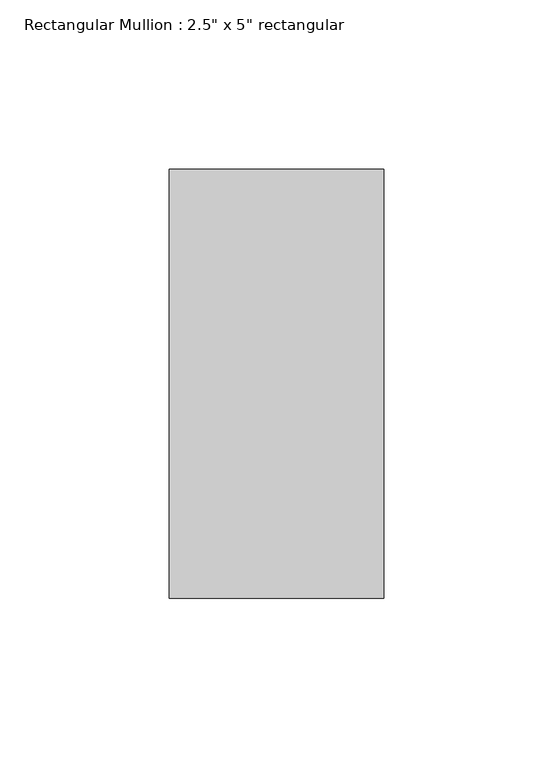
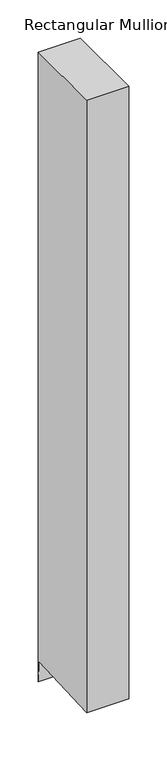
"""IFC4 building model written with IfcOpenShell, lengths in millimetres: member geometry."""

from ifc_helpers import new_model, si_unit, frame, origin, place, context, project, spatial, polyline, outline, extrude, source, transform, mapped, element, save


def member_47d2ef55(model_context):
    return source(origin(), model_context, "Body", "SweptSolid", [
        extrude(outline(polyline([(-63.5, 0.0), (63.5, 0.0), (63.5, -1006.4222437), (62.043738, -973.3086309), (-63.5, -978.8297614), (-63.5, 0.0)])), frame((-63.5, 0.0, 0.0), z_axis=(1.0, 0.0, 0.0), x_axis=(0.0, 1.0, 0.0)), (0.0, 0.0, 1.0), 63.5),
    ])


if __name__ == "__main__":
    model = new_model("IFC4")
    model_context = context("Model", 3, world=origin())
    ifc_project = project(units=[si_unit("LENGTHUNIT", "METRE", prefix="MILLI")], contexts=[model_context])
    site = spatial("IfcSite", under=ifc_project)
    building = spatial("IfcBuilding", under=site)
    placement = place(None, origin())
    member_shape = member_47d2ef55(model_context)
    element("IfcMember", 1, ObjectType="Rectangular Mullion : 2.5\" x 5\" rectangular", at=placement, inside=building, context=model_context, shape_type="MappedRepresentation", body=[
        mapped(member_shape, transform((0.0, 0.0, 0.0), x_axis=(1.0, 0.0, 0.0), y_axis=(0.0, 1.0, 0.0), z_axis=(0.0, 0.0, 1.0))),
    ])
    save(model, "model.ifc")
